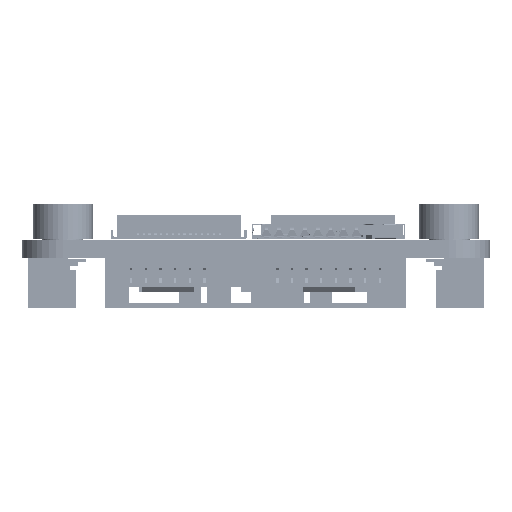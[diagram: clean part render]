
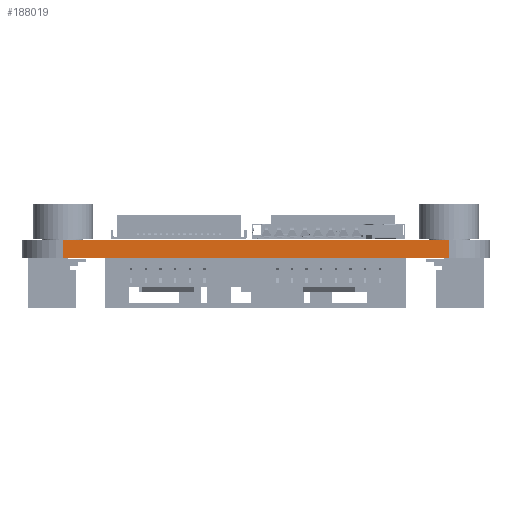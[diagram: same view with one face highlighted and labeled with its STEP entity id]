
A CAD part, front view. The second image highlights one B-rep face of the part: STEP entity #188019.
In plain terms, the highlighted planar face has unit normal (0, -1, 0).
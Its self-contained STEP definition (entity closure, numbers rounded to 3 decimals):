
#17400=FACE_OUTER_BOUND('',#26814,.T.);
#26814=EDGE_LOOP('',(#171176,#171177,#171178,#171179));
#52755=LINE('',#300935,#75798);
#52758=LINE('',#301025,#75801);
#52760=LINE('',#301106,#75803);
#52762=LINE('',#301110,#75805);
#75798=VECTOR('',#247052,1.);
#75801=VECTOR('',#247141,1.);
#75803=VECTOR('',#247225,1.);
#75805=VECTOR('',#247231,1.);
#93063=VERTEX_POINT('',#300932);
#93064=VERTEX_POINT('',#300934);
#93107=VERTEX_POINT('',#301022);
#93108=VERTEX_POINT('',#301024);
#119083=EDGE_CURVE('',#93063,#93064,#52755,.T.);
#119128=EDGE_CURVE('',#93108,#93107,#52758,.T.);
#119169=EDGE_CURVE('',#93063,#93108,#52760,.T.);
#119171=EDGE_CURVE('',#93064,#93107,#52762,.T.);
#171176=ORIENTED_EDGE('',*,*,#119169,.T.);
#171177=ORIENTED_EDGE('',*,*,#119128,.T.);
#171178=ORIENTED_EDGE('',*,*,#119171,.F.);
#171179=ORIENTED_EDGE('',*,*,#119083,.F.);
#178946=PLANE('',#200248);
#188019=ADVANCED_FACE('',(#17400),#178946,.T.);
#200248=AXIS2_PLACEMENT_3D('',#301109,#247229,#247230);
#247052=DIRECTION('',(-1.,0.,0.));
#247141=DIRECTION('',(-1.,0.,0.));
#247225=DIRECTION('',(0.,0.,1.));
#247229=DIRECTION('center_axis',(0.,-1.,0.));
#247230=DIRECTION('ref_axis',(-1.,0.,0.));
#247231=DIRECTION('',(0.,0.,1.));
#300932=CARTESIAN_POINT('',(16.5,-27.5,0.));
#300934=CARTESIAN_POINT('',(-16.5,-27.5,0.));
#300935=CARTESIAN_POINT('',(16.5,-27.5,0.));
#301022=CARTESIAN_POINT('',(-16.5,-27.5,1.51));
#301024=CARTESIAN_POINT('',(16.5,-27.5,1.51));
#301025=CARTESIAN_POINT('',(16.5,-27.5,1.51));
#301106=CARTESIAN_POINT('',(16.5,-27.5,0.));
#301109=CARTESIAN_POINT('Origin',(16.5,-27.5,0.));
#301110=CARTESIAN_POINT('',(-16.5,-27.5,0.));
